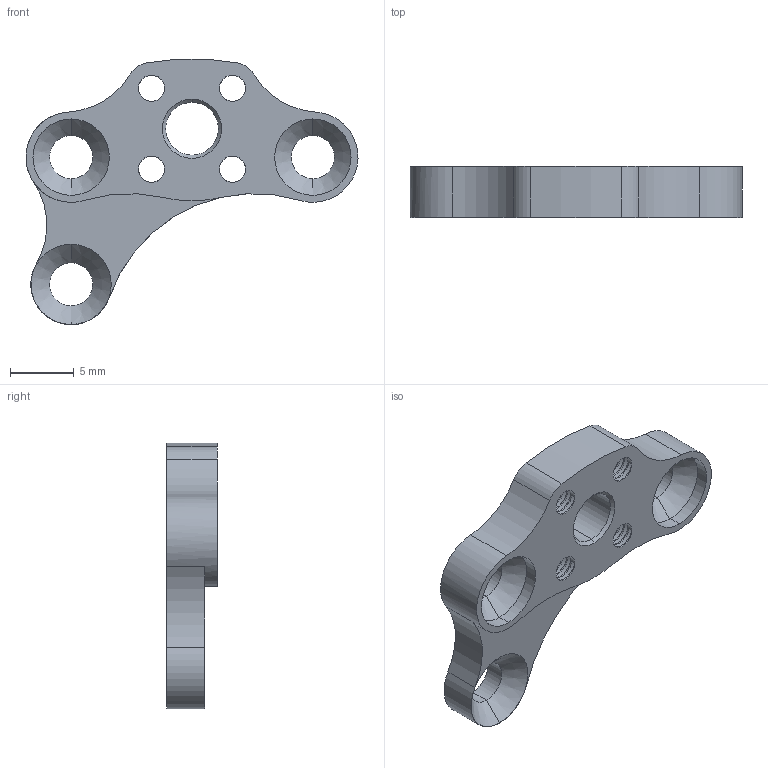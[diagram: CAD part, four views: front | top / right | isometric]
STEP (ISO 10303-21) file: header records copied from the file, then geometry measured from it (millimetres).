
FILE_DESCRIPTION (( 'STEP AP214' ), '1' );
FILE_NAME ('LGX Lite Mosquito Mounting Plate.STEP', '2022-01-17T07:57:54', ( '' ), ( '' ), 'SwSTEP 2.0', 'SolidWorks 2021', '' );
FILE_SCHEMA (( 'AUTOMOTIVE_DESIGN' ));
Length unit declared in the file: millimetre
Products named in the file (1): LGX Lite Mosquito Mounting Plate
Bounding box: 26.1 x 4 x 20.87 mm (x, y, z)
Volume: 777.5 mm3; surface area: 1119 mm2
Topology: 1 solids, 1 shells, 135 faces, 375 edges, 244 vertices
Faces by surface type: cylinder 104, bspline 12, cone 10, plane 9
Entity records: 12307 total; most frequent: CARTESIAN_POINT 9267, ORIENTED_EDGE 750, DIRECTION 527, EDGE_CURVE 375, VERTEX_POINT 244, AXIS2_PLACEMENT_3D 208, EDGE_LOOP 153, FACE_OUTER_BOUND 135
